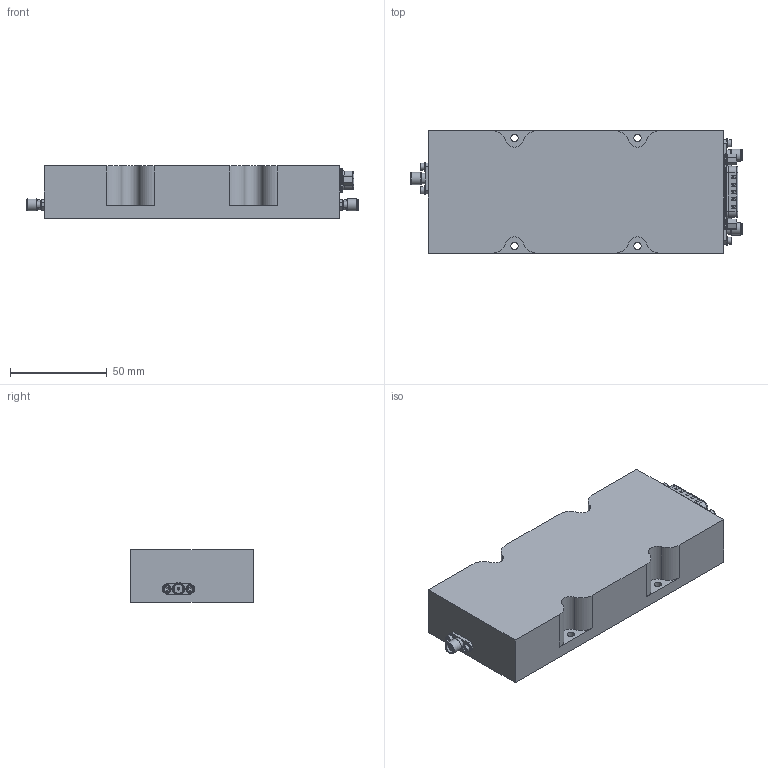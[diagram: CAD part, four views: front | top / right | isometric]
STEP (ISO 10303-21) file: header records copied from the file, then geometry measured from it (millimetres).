
FILE_DESCRIPTION((''),'2;1');
FILE_NAME('\\DATADRIVE\MMC_Tech\Models\TA1029 6400-7500MHz, 25 Watt, Class AB\Inventor\3D_TA1029.stp','2012-12-06T14:11:35',('David'),(''),'Autodesk Inventor 2013','Autodesk Inventor 2013','');
FILE_SCHEMA(('AUTOMOTIVE_DESIGN { 1 0 10303 214 1 1 1 1 }'));
Length unit declared in the file: inch
Products named in the file (9): 3D_TA1029; 7W2M_3D; 7W2PIN_3D; 7261; SMA2Hole; Hexagon Socket Head Cap Screw - Inch No. 2 - 56 UNC - 3/16; Regular Helical Spring Lock Washer (Inch) No.2; Helical Spring Lock Washers 0.112
Assembly tree (23 placements, depth 2):
  3D_TA1029
    3D_TA1029
    7W2M_3D
    7W2PIN_3D  x2
    7261  x2
    SMA2Hole  x3
    Hexagon Socket Head Cap Screw - Inch No. 2 - 56 UNC - 3/16  x6
    Regular Helical Spring Lock Washer (Inch) No.2  x6
    Helical Spring Lock Washers 0.112  x2
Bounding box: 171.45 x 63.5 x 27 mm (x, y, z)
Volume: 256773.3 mm3; surface area: 38440.9 mm2
Topology: 23 solids, 23 shells, 757 faces, 1795 edges, 1154 vertices
Faces by surface type: plane 435, cylinder 217, cone 46, torus 45, bspline 7, sphere 7
Full cylindrical faces by diameter (mm): 0.737 x3, 1 x10, 1.245 x3, 1.295 x3, 1.6 x5, 1.702 x6, 2.159 x4, 2.184 x6, 2.591 x6, 2.769 x2, 3 x2, 3.556 x6, 3.6 x4, 3.81 x4, 4.597 x3, 4.6 x2, 4.73 x4, 5.28 x2, 5.486 x6, 5.5 x2, 6.35 x3
Entity records: 16782 total; most frequent: CARTESIAN_POINT 3561, DIRECTION 2714, ORIENTED_EDGE 2492, EDGE_CURVE 1246, AXIS2_PLACEMENT_3D 966, VERTEX_POINT 841, VECTOR 782, LINE 782
